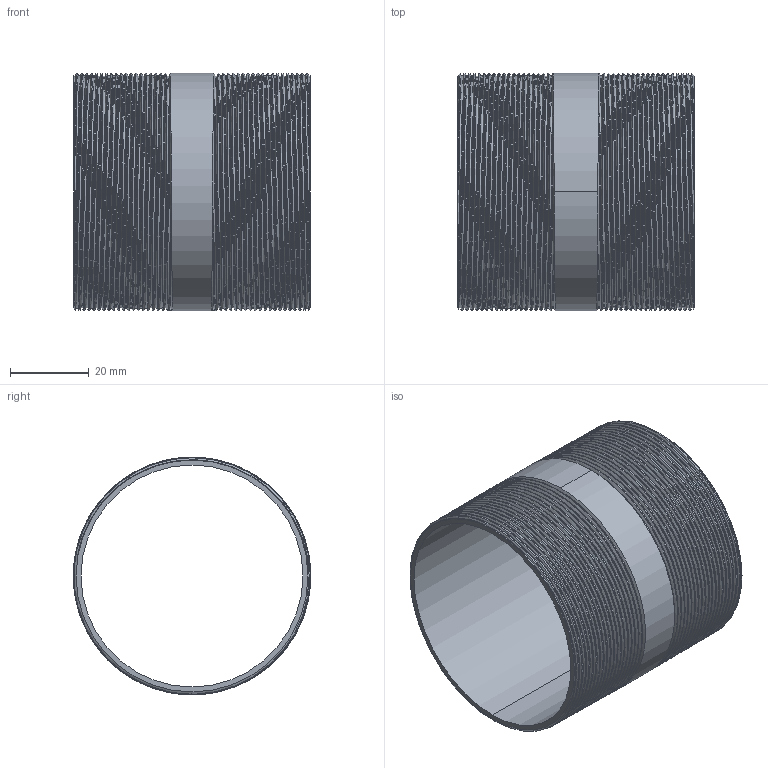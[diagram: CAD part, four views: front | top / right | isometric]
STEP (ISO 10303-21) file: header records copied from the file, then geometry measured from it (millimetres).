
FILE_DESCRIPTION (( 'STEP AP203' ), '1' );
FILE_NAME ('3D_R210_2x60_17148600.STEP', '2024-08-16T10:13:18', ( '' ), ( '' ), 'SwSTEP 2.0', 'SolidWorks 2024', '' );
FILE_SCHEMA (( 'CONFIG_CONTROL_DESIGN' ));
Length unit declared in the file: millimetre
Products named in the file (1): 3D_R210_2x60_17148600
Bounding box: 60 x 60.27 x 60.3 mm (x, y, z)
Volume: 18139.9 mm3; surface area: 27319.8 mm2
Topology: 1 solids, 1 shells, 98 faces, 280 edges, 184 vertices
Faces by surface type: cone 84, bspline 6, cylinder 4, plane 4
Entity records: 18321 total; most frequent: CARTESIAN_POINT 16045, ORIENTED_EDGE 560, DIRECTION 308, EDGE_CURVE 280, VERTEX_POINT 184, B_SPLINE_CURVE_WITH_KNOTS 164, AXIS2_PLACEMENT_3D 107, EDGE_LOOP 100
